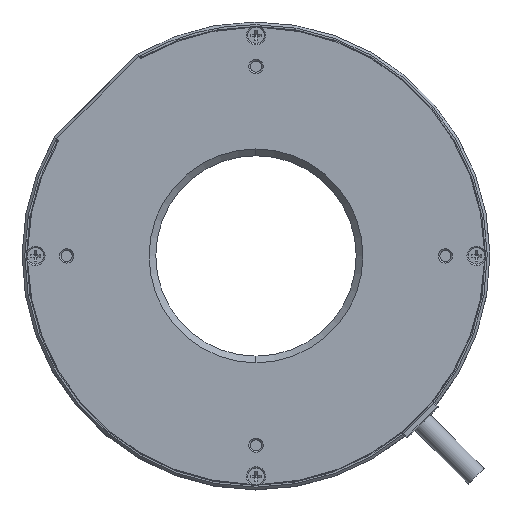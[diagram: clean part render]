
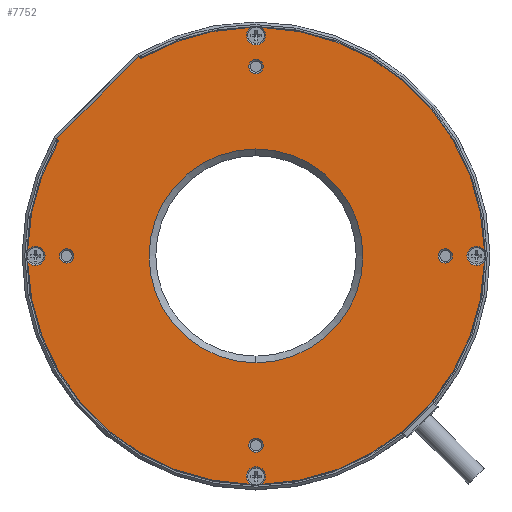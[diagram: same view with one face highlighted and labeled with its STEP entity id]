
A CAD part, top view. The second image highlights one B-rep face of the part: STEP entity #7752.
In plain terms, the highlighted planar face has unit normal (0, 0, 1).
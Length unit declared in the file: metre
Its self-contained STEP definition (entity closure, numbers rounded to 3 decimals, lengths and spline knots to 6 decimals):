
#1391=CARTESIAN_POINT('',(0.,0.,0.004));
#1392=DIRECTION('',(0.,0.,-1.));
#1393=DIRECTION('',(0.,1.,0.));
#1394=AXIS2_PLACEMENT_3D('',#1391,#1392,#1393);
#1396=CARTESIAN_POINT('',(0.,0.,0.004));
#1397=DIRECTION('',(0.,0.,-1.));
#1398=DIRECTION('',(0.,-1.,0.));
#1399=AXIS2_PLACEMENT_3D('',#1396,#1397,#1398);
#1401=CARTESIAN_POINT('',(0.,-0.0425,0.004));
#1402=DIRECTION('',(0.,0.,-1.));
#1403=DIRECTION('',(0.,-1.,0.));
#1404=AXIS2_PLACEMENT_3D('',#1401,#1402,#1403);
#1406=CARTESIAN_POINT('',(0.,-0.0425,0.004));
#1407=DIRECTION('',(0.,0.,-1.));
#1408=DIRECTION('',(0.,1.,0.));
#1409=AXIS2_PLACEMENT_3D('',#1406,#1407,#1408);
#1411=CARTESIAN_POINT('',(0.0425,0.,0.004));
#1412=DIRECTION('',(0.,0.,-1.));
#1413=DIRECTION('',(1.,0.,0.));
#1414=AXIS2_PLACEMENT_3D('',#1411,#1412,#1413);
#1416=CARTESIAN_POINT('',(0.0425,0.,0.004));
#1417=DIRECTION('',(0.,0.,-1.));
#1418=DIRECTION('',(-1.,0.,0.));
#1419=AXIS2_PLACEMENT_3D('',#1416,#1417,#1418);
#1421=CARTESIAN_POINT('',(0.,0.0425,0.004));
#1422=DIRECTION('',(0.,0.,-1.));
#1423=DIRECTION('',(0.,1.,0.));
#1424=AXIS2_PLACEMENT_3D('',#1421,#1422,#1423);
#1426=CARTESIAN_POINT('',(0.,0.0425,0.004));
#1427=DIRECTION('',(0.,0.,-1.));
#1428=DIRECTION('',(0.,-1.,0.));
#1429=AXIS2_PLACEMENT_3D('',#1426,#1427,#1428);
#1431=CARTESIAN_POINT('',(-0.0425,0.,0.004));
#1432=DIRECTION('',(0.,0.,-1.));
#1433=DIRECTION('',(-1.,0.,0.));
#1434=AXIS2_PLACEMENT_3D('',#1431,#1432,#1433);
#1436=CARTESIAN_POINT('',(-0.0425,0.,0.004));
#1437=DIRECTION('',(0.,0.,-1.));
#1438=DIRECTION('',(1.,0.,0.));
#1439=AXIS2_PLACEMENT_3D('',#1436,#1437,#1438);
#1441=CARTESIAN_POINT('',(0.,0.,0.004));
#1442=DIRECTION('',(0.,0.,1.));
#1443=DIRECTION('',(-0.867,0.498,0.));
#1444=AXIS2_PLACEMENT_3D('',#1441,#1442,#1443);
#1446=CARTESIAN_POINT('',(-0.044908,0.025816,0.004));
#1447=DIRECTION('',(0.,0.,-1.));
#1448=DIRECTION('',(0.707,0.707,0.));
#1449=AXIS2_PLACEMENT_3D('',#1446,#1447,#1448);
#1451=DIRECTION('',(0.707,-0.707,0.));
#1452=VECTOR('',#1451,0.000255);
#1453=CARTESIAN_POINT('',(-0.044735,0.02635,0.004));
#1454=LINE('',#1453,#1452);
#1455=DIRECTION('',(-0.707,-0.707,0.));
#1456=VECTOR('',#1455,0.026);
#1457=CARTESIAN_POINT('',(-0.02635,0.044735,0.004));
#1458=LINE('',#1457,#1456);
#1459=DIRECTION('',(-0.707,0.707,0.));
#1460=VECTOR('',#1459,0.000255);
#1461=CARTESIAN_POINT('',(-0.02617,0.044555,0.004));
#1462=LINE('',#1461,#1460);
#1463=CARTESIAN_POINT('',(-0.025816,0.044908,0.004));
#1464=DIRECTION('',(0.,0.,-1.));
#1465=DIRECTION('',(0.498,-0.867,0.));
#1466=AXIS2_PLACEMENT_3D('',#1463,#1464,#1465);
#1468=CARTESIAN_POINT('',(0.,0.,0.004));
#1469=DIRECTION('',(0.,0.,1.));
#1470=DIRECTION('',(-0.023,1.,0.));
#1471=AXIS2_PLACEMENT_3D('',#1468,#1469,#1470);
#1473=CARTESIAN_POINT('',(0.,0.,0.004));
#1474=DIRECTION('',(0.,0.,1.));
#1475=DIRECTION('',(1.,0.023,0.));
#1476=AXIS2_PLACEMENT_3D('',#1473,#1474,#1475);
#1478=CARTESIAN_POINT('',(0.,0.,0.004));
#1479=DIRECTION('',(0.,0.,1.));
#1480=DIRECTION('',(0.023,-1.,0.));
#1481=AXIS2_PLACEMENT_3D('',#1478,#1479,#1480);
#1483=CARTESIAN_POINT('',(0.,0.,0.004));
#1484=DIRECTION('',(0.,0.,1.));
#1485=DIRECTION('',(-1.,-0.023,0.));
#1486=AXIS2_PLACEMENT_3D('',#1483,#1484,#1485);
#2987=CARTESIAN_POINT('',(-0.0495,0.,0.004));
#2988=DIRECTION('',(0.,0.,-1.));
#2989=DIRECTION('',(-0.831,0.557,0.));
#2990=AXIS2_PLACEMENT_3D('',#2987,#2988,#2989);
#3319=CARTESIAN_POINT('',(0.,-0.0495,0.004));
#3320=DIRECTION('',(0.,0.,-1.));
#3321=DIRECTION('',(-0.557,-0.831,0.));
#3322=AXIS2_PLACEMENT_3D('',#3319,#3320,#3321);
#3644=CARTESIAN_POINT('',(0.0495,0.,0.004));
#3645=DIRECTION('',(0.,0.,-1.));
#3646=DIRECTION('',(0.831,-0.557,0.));
#3647=AXIS2_PLACEMENT_3D('',#3644,#3645,#3646);
#3976=CARTESIAN_POINT('',(0.,0.0495,0.004));
#3977=DIRECTION('',(0.,0.,-1.));
#3978=DIRECTION('',(0.557,0.831,0.));
#3979=AXIS2_PLACEMENT_3D('',#3976,#3977,#3978);
#4539=CARTESIAN_POINT('',(-0.044475,0.025567,0.004));
#4540=CARTESIAN_POINT('',(-0.051286,0.001196,0.004));
#4541=VERTEX_POINT('',#4539);
#4542=VERTEX_POINT('',#4540);
#4543=CARTESIAN_POINT('',(-0.044555,0.02617,0.004));
#4544=VERTEX_POINT('',#4543);
#4545=CARTESIAN_POINT('',(-0.044735,0.02635,0.004));
#4546=VERTEX_POINT('',#4545);
#4547=CARTESIAN_POINT('',(-0.02635,0.044735,0.004));
#4548=VERTEX_POINT('',#4547);
#4549=CARTESIAN_POINT('',(-0.02617,0.044555,0.004));
#4550=VERTEX_POINT('',#4549);
#4551=CARTESIAN_POINT('',(-0.025567,0.044475,0.004));
#4552=VERTEX_POINT('',#4551);
#4553=CARTESIAN_POINT('',(-0.001197,0.051286,0.004));
#4554=VERTEX_POINT('',#4553);
#4555=CARTESIAN_POINT('',(0.051286,0.001197,0.004));
#4556=CARTESIAN_POINT('',(0.001196,0.051286,0.004));
#4557=VERTEX_POINT('',#4555);
#4558=VERTEX_POINT('',#4556);
#4559=CARTESIAN_POINT('',(0.001197,-0.051286,0.004));
#4560=CARTESIAN_POINT('',(0.051286,-0.001196,0.004));
#4561=VERTEX_POINT('',#4559);
#4562=VERTEX_POINT('',#4560);
#4563=CARTESIAN_POINT('',(-0.051286,-0.001197,0.004));
#4564=CARTESIAN_POINT('',(-0.001196,-0.051286,0.004));
#4565=VERTEX_POINT('',#4563);
#4566=VERTEX_POINT('',#4564);
#4567=CARTESIAN_POINT('',(-0.0409,0.,0.004));
#4568=CARTESIAN_POINT('',(-0.0441,0.,0.004));
#4569=VERTEX_POINT('',#4567);
#4570=VERTEX_POINT('',#4568);
#4571=CARTESIAN_POINT('',(0.,0.0409,0.004));
#4572=CARTESIAN_POINT('',(0.,0.0441,0.004));
#4573=VERTEX_POINT('',#4571);
#4574=VERTEX_POINT('',#4572);
#4575=CARTESIAN_POINT('',(0.0409,0.,0.004));
#4576=CARTESIAN_POINT('',(0.0441,0.,0.004));
#4577=VERTEX_POINT('',#4575);
#4578=VERTEX_POINT('',#4576);
#4579=CARTESIAN_POINT('',(0.,-0.0409,0.004));
#4580=CARTESIAN_POINT('',(0.,-0.0441,0.004));
#4581=VERTEX_POINT('',#4579);
#4582=VERTEX_POINT('',#4580);
#4583=CARTESIAN_POINT('',(0.,-0.024,0.004));
#4584=CARTESIAN_POINT('',(0.,0.024,0.004));
#4585=VERTEX_POINT('',#4583);
#4586=VERTEX_POINT('',#4584);
#7689=CARTESIAN_POINT('',(0.,0.,0.004));
#7690=DIRECTION('',(0.,0.,-1.));
#7691=DIRECTION('',(0.,-1.,0.));
#7692=AXIS2_PLACEMENT_3D('',#7689,#7690,#7691);
#7693=PLANE('',#7692);
#7695=ORIENTED_EDGE('',*,*,#7694,.F.);
#7697=ORIENTED_EDGE('',*,*,#7696,.F.);
#7699=ORIENTED_EDGE('',*,*,#7698,.F.);
#7701=ORIENTED_EDGE('',*,*,#7700,.F.);
#7703=ORIENTED_EDGE('',*,*,#7702,.F.);
#7705=ORIENTED_EDGE('',*,*,#7704,.F.);
#7707=ORIENTED_EDGE('',*,*,#7706,.F.);
#7709=ORIENTED_EDGE('',*,*,#7708,.F.);
#7711=ORIENTED_EDGE('',*,*,#7710,.F.);
#7713=ORIENTED_EDGE('',*,*,#7712,.F.);
#7715=ORIENTED_EDGE('',*,*,#7714,.F.);
#7717=ORIENTED_EDGE('',*,*,#7716,.F.);
#7719=ORIENTED_EDGE('',*,*,#7718,.F.);
#7721=ORIENTED_EDGE('',*,*,#7720,.F.);
#7722=EDGE_LOOP('',(#7695,#7697,#7699,#7701,#7703,#7705,#7707,#7709,#7711,#7713,
#7715,#7717,#7719,#7721));
#7723=FACE_OUTER_BOUND('',#7722,.F.);
#7725=ORIENTED_EDGE('',*,*,#7724,.F.);
#7727=ORIENTED_EDGE('',*,*,#7726,.F.);
#7728=EDGE_LOOP('',(#7725,#7727));
#7729=FACE_BOUND('',#7728,.F.);
#7731=ORIENTED_EDGE('',*,*,#7730,.F.);
#7733=ORIENTED_EDGE('',*,*,#7732,.F.);
#7734=EDGE_LOOP('',(#7731,#7733));
#7735=FACE_BOUND('',#7734,.F.);
#7737=ORIENTED_EDGE('',*,*,#7736,.F.);
#7739=ORIENTED_EDGE('',*,*,#7738,.F.);
#7740=EDGE_LOOP('',(#7737,#7739));
#7741=FACE_BOUND('',#7740,.F.);
#7743=ORIENTED_EDGE('',*,*,#7742,.F.);
#7745=ORIENTED_EDGE('',*,*,#7744,.F.);
#7746=EDGE_LOOP('',(#7743,#7745));
#7747=FACE_BOUND('',#7746,.F.);
#7748=ORIENTED_EDGE('',*,*,#7682,.F.);
#7749=ORIENTED_EDGE('',*,*,#7668,.F.);
#7750=EDGE_LOOP('',(#7748,#7749));
#7751=FACE_BOUND('',#7750,.F.);
#7752=ADVANCED_FACE('',(#7723,#7729,#7735,#7741,#7747,#7751),#7693,.F.);
#1395=CIRCLE('',#1394,0.024);
#1400=CIRCLE('',#1399,0.024);
#1405=CIRCLE('',#1404,0.0016);
#1410=CIRCLE('',#1409,0.0016);
#1415=CIRCLE('',#1414,0.0016);
#1420=CIRCLE('',#1419,0.0016);
#1425=CIRCLE('',#1424,0.0016);
#1430=CIRCLE('',#1429,0.0016);
#1435=CIRCLE('',#1434,0.0016);
#1440=CIRCLE('',#1439,0.0016);
#1445=CIRCLE('',#1444,0.0513);
#1450=CIRCLE('',#1449,0.0005);
#1467=CIRCLE('',#1466,0.0005);
#1472=CIRCLE('',#1471,0.0513);
#1477=CIRCLE('',#1476,0.0513);
#1482=CIRCLE('',#1481,0.0513);
#1487=CIRCLE('',#1486,0.0513);
#2991=CIRCLE('',#2990,0.00215);
#3323=CIRCLE('',#3322,0.00215);
#3648=CIRCLE('',#3647,0.00215);
#3980=CIRCLE('',#3979,0.00215);
#7668=EDGE_CURVE('',#4585,#4586,#1400,.T.);
#7682=EDGE_CURVE('',#4586,#4585,#1395,.T.);
#7694=EDGE_CURVE('',#4542,#4565,#2991,.T.);
#7696=EDGE_CURVE('',#4541,#4542,#1445,.T.);
#7698=EDGE_CURVE('',#4544,#4541,#1450,.T.);
#7700=EDGE_CURVE('',#4546,#4544,#1454,.T.);
#7702=EDGE_CURVE('',#4548,#4546,#1458,.T.);
#7704=EDGE_CURVE('',#4550,#4548,#1462,.T.);
#7706=EDGE_CURVE('',#4552,#4550,#1467,.T.);
#7708=EDGE_CURVE('',#4554,#4552,#1472,.T.);
#7710=EDGE_CURVE('',#4558,#4554,#3980,.T.);
#7712=EDGE_CURVE('',#4557,#4558,#1477,.T.);
#7714=EDGE_CURVE('',#4562,#4557,#3648,.T.);
#7716=EDGE_CURVE('',#4561,#4562,#1482,.T.);
#7718=EDGE_CURVE('',#4566,#4561,#3323,.T.);
#7720=EDGE_CURVE('',#4565,#4566,#1487,.T.);
#7724=EDGE_CURVE('',#4582,#4581,#1405,.T.);
#7726=EDGE_CURVE('',#4581,#4582,#1410,.T.);
#7730=EDGE_CURVE('',#4578,#4577,#1415,.T.);
#7732=EDGE_CURVE('',#4577,#4578,#1420,.T.);
#7736=EDGE_CURVE('',#4574,#4573,#1425,.T.);
#7738=EDGE_CURVE('',#4573,#4574,#1430,.T.);
#7742=EDGE_CURVE('',#4570,#4569,#1435,.T.);
#7744=EDGE_CURVE('',#4569,#4570,#1440,.T.);
